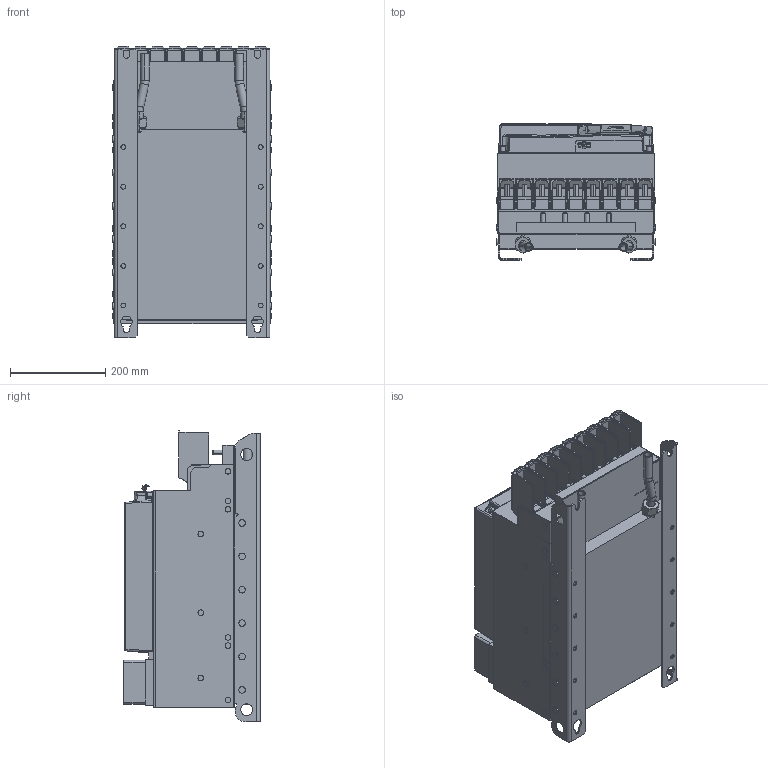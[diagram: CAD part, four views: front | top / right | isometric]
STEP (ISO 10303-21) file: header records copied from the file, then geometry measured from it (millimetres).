
FILE_DESCRIPTION (( 'STEP AP214' ), '1' );
FILE_NAME ('TW0 A.STEP', '2023-11-20T07:41:02', ( '' ), ( '' ), 'SwSTEP 2.0', 'SolidWorks 2022', '' );
FILE_SCHEMA (( 'AUTOMOTIVE_DESIGN' ));
Length unit declared in the file: millimetre
Products named in the file (13): 10061502_000_Deckel (Kundenmodell); Kundenmodell^10059764_000; Kundenmodell ohne Zubehör^10077759_000; TW0 A; Kundenmodell^10061502_000; Kundenmodell^10035736_000; 10043622_000_70F6 Klemme (Kundenmodell); 10045475_000_Gehäusebaugruppe F6-7 (Kundenmodell); 10077759_000_ Leistungsteil F6-7 TW0 (Kundenmodell); Kundenmodell^10043622_000; 10035736_000_Kundenmodell; 10059764_000_Blindabdeckung (Kundenmodell); Kundenmodell^10045475_000_Gehäusebaugruppe ohne Lüfterkarte
Assembly tree (12 placements, depth 4):
  TW0 A
    10077759_000_ Leistungsteil F6-7 TW0 (Kundenmodell)
      10043622_000_70F6 Klemme (Kundenmodell)
        Kundenmodell^10043622_000
      Kundenmodell ohne Zubehör^10077759_000
    10045475_000_Gehäusebaugruppe F6-7 (Kundenmodell)
      10061502_000_Deckel (Kundenmodell)
        Kundenmodell^10061502_000
      Kundenmodell^10045475_000_Gehäusebaugruppe ohne Lüfterkarte
    10035736_000_Kundenmodell
      10059764_000_Blindabdeckung (Kundenmodell)
        Kundenmodell^10059764_000
      Kundenmodell^10035736_000
Bounding box: 335.4 x 285.9 x 610.76 mm (x, y, z)
Volume: 41229352.8 mm3; surface area: 2160970.2 mm2
Topology: 12 solids, 14 shells, 3262 faces, 8327 edges, 5112 vertices
Faces by surface type: plane 1622, cylinder 983, bspline 281, sphere 172, cone 121, torus 83
Entity records: 105354 total; most frequent: CARTESIAN_POINT 28341, ORIENTED_EDGE 16434, DIRECTION 15152, EDGE_CURVE 8217, LINE 5128, VECTOR 5128, VERTEX_POINT 5109, AXIS2_PLACEMENT_3D 5012
